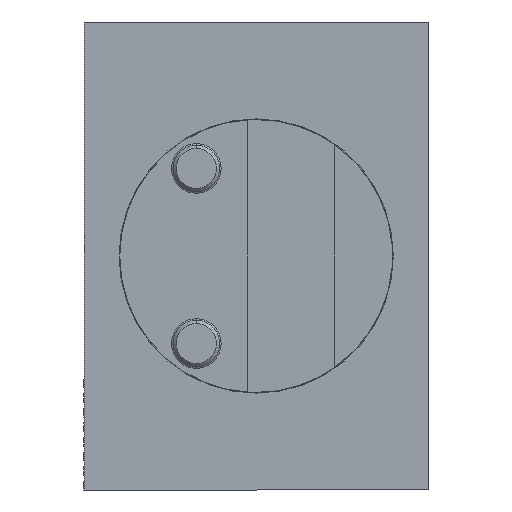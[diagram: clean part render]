
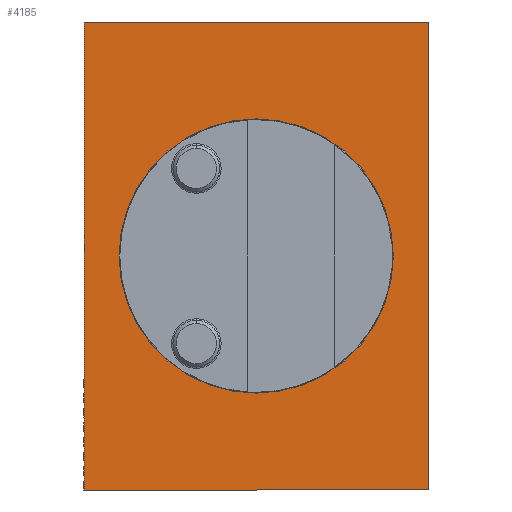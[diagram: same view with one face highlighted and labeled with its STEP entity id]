
A CAD part, front view. The second image highlights one B-rep face of the part: STEP entity #4185.
In plain terms, the highlighted planar face has unit normal (0, -1, 0).
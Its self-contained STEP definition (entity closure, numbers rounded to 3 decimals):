
#342 = EDGE_CURVE ( 'NONE', #343, #375, #6308, .T. ) ;
#343 = VERTEX_POINT ( 'NONE', #6304 ) ;
#374 = EDGE_CURVE ( 'NONE', #375, #376, #6350, .T. ) ;
#375 = VERTEX_POINT ( 'NONE', #6356 ) ;
#376 = VERTEX_POINT ( 'NONE', #6364 ) ;
#1237 = CARTESIAN_POINT ( 'NONE',  ( -47., -49.57, 0. ) ) ;
#1238 = CARTESIAN_POINT ( 'NONE',  ( 47., -49.57, 0. ) ) ;
#1239 = DIRECTION ( 'NONE',  ( -1., 0., 0. ) ) ;
#1240 = DIRECTION ( 'NONE',  ( 0., 1., 0. ) ) ;
#1241 = AXIS2_PLACEMENT_3D ( 'NONE', #1268, #1240, #1239 ) ;
#1242 = CIRCLE ( 'NONE', #1241, 47. ) ;
#1268 = CARTESIAN_POINT ( 'NONE',  ( 0., -49.57, 0. ) ) ;
#3768 = VERTEX_POINT ( 'NONE', #6906 ) ;
#3811 = EDGE_CURVE ( 'NONE', #3768, #343, #6865, .T. ) ;
#3820 = EDGE_CURVE ( 'NONE', #376, #3768, #6921, .T. ) ;
#4144 = ORIENTED_EDGE ( 'NONE', *, *, #4145, .T. ) ;
#4145 = EDGE_CURVE ( 'NONE', #4678, #4677, #7275, .T. ) ;
#4185 = ADVANCED_FACE ( 'NONE', ( #7346, #7371 ), #7351, .F. ) ;
#4186 = EDGE_LOOP ( 'NONE', ( #4144, #4198 ) ) ;
#4198 = ORIENTED_EDGE ( 'NONE', *, *, #4676, .T. ) ;
#4202 = ORIENTED_EDGE ( 'NONE', *, *, #342, .F. ) ;
#4208 = ORIENTED_EDGE ( 'NONE', *, *, #374, .F. ) ;
#4214 = EDGE_LOOP ( 'NONE', ( #4217, #4208, #4202, #4218 ) ) ;
#4217 = ORIENTED_EDGE ( 'NONE', *, *, #3820, .F. ) ;
#4218 = ORIENTED_EDGE ( 'NONE', *, *, #3811, .F. ) ;
#4676 = EDGE_CURVE ( 'NONE', #4677, #4678, #1242, .T. ) ;
#4677 = VERTEX_POINT ( 'NONE', #1238 ) ;
#4678 = VERTEX_POINT ( 'NONE', #1237 ) ;
#6304 = CARTESIAN_POINT ( 'NONE',  ( -59., -49.57, 80.2 ) ) ;
#6305 = DIRECTION ( 'NONE',  ( 1., 0., 0. ) ) ;
#6306 = VECTOR ( 'NONE', #6305, 1000. ) ;
#6307 = CARTESIAN_POINT ( 'NONE',  ( 59., -49.57, 80.2 ) ) ;
#6308 = LINE ( 'NONE', #6307, #6306 ) ;
#6350 = LINE ( 'NONE', #6359, #6358 ) ;
#6356 = CARTESIAN_POINT ( 'NONE',  ( 59., -49.57, 80.2 ) ) ;
#6357 = DIRECTION ( 'NONE',  ( 0., 0., -1. ) ) ;
#6358 = VECTOR ( 'NONE', #6357, 1000. ) ;
#6359 = CARTESIAN_POINT ( 'NONE',  ( 59., -49.57, -80.2 ) ) ;
#6364 = CARTESIAN_POINT ( 'NONE',  ( 59., -49.57, -80.2 ) ) ;
#6865 = LINE ( 'NONE', #6894, #6952 ) ;
#6894 = CARTESIAN_POINT ( 'NONE',  ( -59., -49.57, -80.2 ) ) ;
#6906 = CARTESIAN_POINT ( 'NONE',  ( -59., -49.57, -80.2 ) ) ;
#6918 = DIRECTION ( 'NONE',  ( -1., 0., 0. ) ) ;
#6919 = VECTOR ( 'NONE', #6918, 1000. ) ;
#6920 = CARTESIAN_POINT ( 'NONE',  ( 59., -49.57, -80.2 ) ) ;
#6921 = LINE ( 'NONE', #6920, #6919 ) ;
#6951 = DIRECTION ( 'NONE',  ( 0., 0., 1. ) ) ;
#6952 = VECTOR ( 'NONE', #6951, 1000. ) ;
#7261 = DIRECTION ( 'NONE',  ( 0., 1., 0. ) ) ;
#7262 = CARTESIAN_POINT ( 'NONE',  ( 0., -49.57, 0. ) ) ;
#7274 = AXIS2_PLACEMENT_3D ( 'NONE', #7262, #7261, #7289 ) ;
#7275 = CIRCLE ( 'NONE', #7274, 47. ) ;
#7289 = DIRECTION ( 'NONE',  ( -1., 0., 0. ) ) ;
#7317 = DIRECTION ( 'NONE',  ( 0., 1., 0. ) ) ;
#7346 = FACE_BOUND ( 'NONE', #4186, .T. ) ;
#7350 = AXIS2_PLACEMENT_3D ( 'NONE', #7372, #7317, #7370 ) ;
#7351 = PLANE ( 'NONE',  #7350 ) ;
#7370 = DIRECTION ( 'NONE',  ( -1., 0., 0. ) ) ;
#7371 = FACE_OUTER_BOUND ( 'NONE', #4214, .T. ) ;
#7372 = CARTESIAN_POINT ( 'NONE',  ( 59., -49.57, -80.2 ) ) ;
